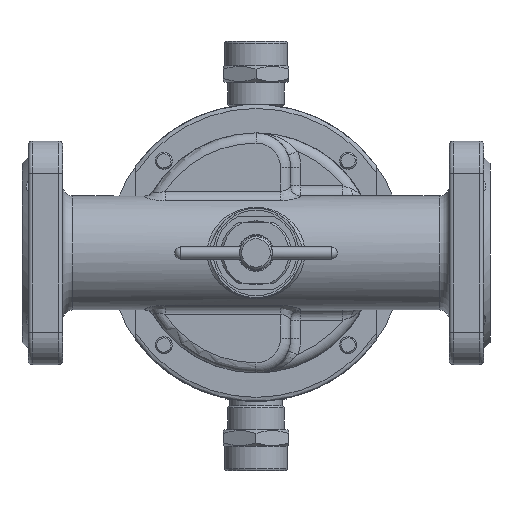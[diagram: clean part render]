
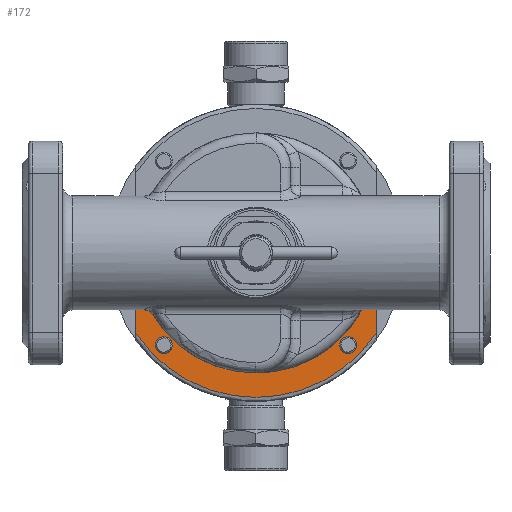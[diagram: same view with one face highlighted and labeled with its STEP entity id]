
A CAD part, front view. The second image highlights one B-rep face of the part: STEP entity #172.
In plain terms, the highlighted planar face has unit normal (0, -1, 0).
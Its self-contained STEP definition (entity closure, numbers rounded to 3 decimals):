
#172=ADVANCED_FACE('',(#4420,#4422,#4424),#4426,.F.);
#4420=FACE_BOUND('',#4421,.T.);
#4421=EDGE_LOOP('',(#21766));
#4422=FACE_BOUND('',#4423,.T.);
#4423=EDGE_LOOP('',(#21767));
#4424=FACE_OUTER_BOUND('',#4425,.T.);
#4425=EDGE_LOOP('',(#21768,#21769,#21770,#21771));
#4426=PLANE('',#4427);
#4427=AXIS2_PLACEMENT_3D('',#4428,#4429,#4430);
#4428=CARTESIAN_POINT('',(0.,39.5,0.));
#4429=DIRECTION('',(0.,1.,0.));
#4430=DIRECTION('',(-1.,0.,0.));
#21766=ORIENTED_EDGE('',*,*,#33204,.T.);
#21767=ORIENTED_EDGE('',*,*,#33205,.T.);
#21768=ORIENTED_EDGE('',*,*,#33203,.F.);
#21769=ORIENTED_EDGE('',*,*,#33163,.F.);
#21770=ORIENTED_EDGE('',*,*,#33155,.F.);
#21771=ORIENTED_EDGE('',*,*,#33146,.F.);
#33146=EDGE_CURVE('',#38205,#38104,#38207,.T.);
#33155=EDGE_CURVE('',#38104,#38106,#38223,.T.);
#33163=EDGE_CURVE('',#38106,#38236,#38237,.T.);
#33203=EDGE_CURVE('',#38236,#38205,#38299,.T.);
#33204=EDGE_CURVE('',#38300,#38300,#38301,.T.);
#33205=EDGE_CURVE('',#38302,#38302,#38303,.T.);
#38104=VERTEX_POINT('',#46448);
#38106=VERTEX_POINT('',#46452);
#38205=VERTEX_POINT('',#46811);
#38207=LINE('',#46867,#46868);
#38223=CIRCLE('',#46944,59.);
#38236=VERTEX_POINT('',#47023);
#38237=LINE('',#47024,#47025);
#38299=CIRCLE('',#47246,71.);
#38300=VERTEX_POINT('',#47250);
#38301=CIRCLE('',#47251,4.188);
#38302=VERTEX_POINT('',#47255);
#38303=CIRCLE('',#47256,4.188);
#46448=CARTESIAN_POINT('',(-59.,39.5,0.));
#46452=CARTESIAN_POINT('',(59.,39.5,0.));
#46811=CARTESIAN_POINT('',(-59.,39.5,-39.497));
#46867=CARTESIAN_POINT('',(-59.,39.5,-39.497));
#46868=VECTOR('',#46869,1.);
#46869=DIRECTION('',(0.,0.,1.));
#46944=AXIS2_PLACEMENT_3D('',#46945,#46946,#46947);
#46945=CARTESIAN_POINT('',(0.,39.5,0.));
#46946=DIRECTION('',(0.,-1.,0.));
#46947=DIRECTION('',(-1.,0.,0.));
#47023=CARTESIAN_POINT('',(59.,39.5,-39.497));
#47024=CARTESIAN_POINT('',(59.,39.5,0.));
#47025=VECTOR('',#47026,1.);
#47026=DIRECTION('',(0.,0.,-1.));
#47246=AXIS2_PLACEMENT_3D('',#47247,#47248,#47249);
#47247=CARTESIAN_POINT('',(0.,39.5,0.));
#47248=DIRECTION('',(0.,1.,0.));
#47249=DIRECTION('',(0.831,0.,-0.556));
#47250=CARTESIAN_POINT('',(41.067,39.5,-45.255));
#47251=AXIS2_PLACEMENT_3D('',#47252,#47253,#47254);
#47252=CARTESIAN_POINT('',(45.255,39.5,-45.255));
#47253=DIRECTION('',(0.,1.,0.));
#47254=DIRECTION('',(-1.,0.,0.));
#47255=CARTESIAN_POINT('',(-49.443,39.5,-45.255));
#47256=AXIS2_PLACEMENT_3D('',#47257,#47258,#47259);
#47257=CARTESIAN_POINT('',(-45.255,39.5,-45.255));
#47258=DIRECTION('',(0.,1.,0.));
#47259=DIRECTION('',(-1.,0.,0.));
